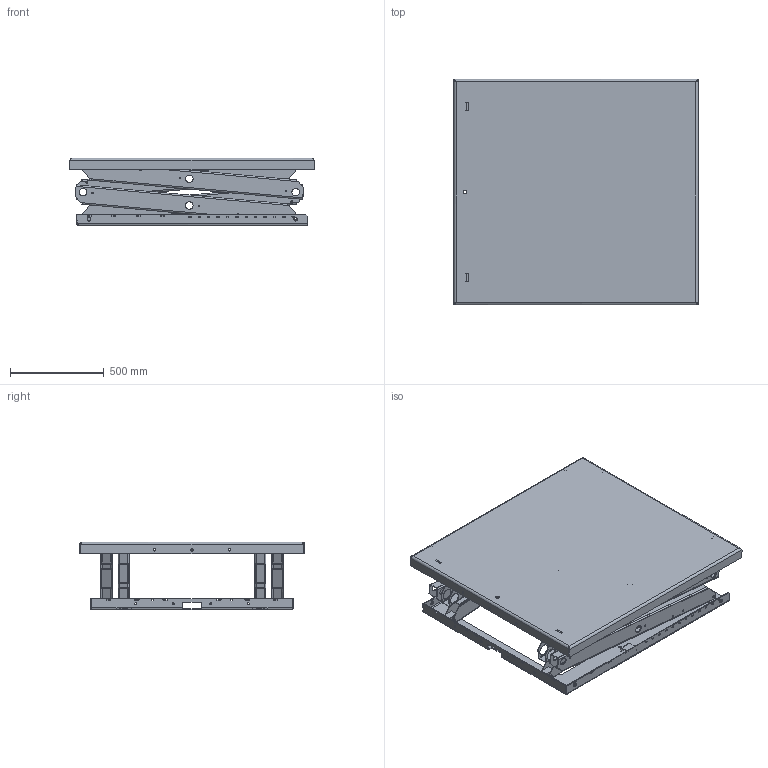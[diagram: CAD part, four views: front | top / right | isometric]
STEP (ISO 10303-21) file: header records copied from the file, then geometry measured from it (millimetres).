
FILE_DESCRIPTION(/* description */ ('TLD 2000XB (1300x1200)'),/* implementation_level */ '2;1');
FILE_NAME(/* name */ '\\EDMOFILE01\Users$\JOHSO\Desktop\524835_Closed_Height.stp',/* time_stamp */ '2017-10-05T14:09:42+02:00',/* author */ ('johso'),/* organization */ (''),/* preprocessor_version */ 'ST-DEVELOPER v16.5',/* originating_system */ 'Autodesk Inventor 2017',/* authorisation */ '');
FILE_SCHEMA (('AUTOMOTIVE_DESIGN { 1 0 10303 214 3 1 1 }'));
Length unit declared in the file: millimetre
Products named in the file (19): 524835.tmp; 512642; 512642-1; 44870; 512635; 512635-1; 45259; 80131; 41333-710; 612543; 607805; 607804; 607803; 607919; 607835; 33123C; 82148-1195; 607807; 33124
Assembly tree (31 placements, depth 6):
  524835.tmp
    512642
      512642-1
      45259  x2
      44870  x2
    512635
      512635-1
      45259  x2
      80131  x4
      41333-710
    612543
      607805
        607804
          33123C  x2
            82148-1195
        607803
          33124  x2
      607919
        607835
          33123C  x2
            82148-1195
        607807
          33124  x2
Bounding box: 1300 x 1200 x 360 mm (x, y, z)
Volume: 26394788.4 mm3; surface area: 10965698.4 mm2
Topology: 21 solids, 21 shells, 1233 faces, 3498 edges, 2299 vertices
Faces by surface type: plane 646, cylinder 537, cone 28, bspline 22
Full cylindrical faces by diameter (mm): 5.55 x2, 6.8 x4, 7.4 x24, 8 x4, 10 x24, 10.5 x4, 11.63 x4, 12.5 x6, 13 x8, 14.2 x16, 19 x1, 20 x4, 28.1 x4, 40 x16, 60 x16
Entity records: 25775 total; most frequent: CARTESIAN_POINT 5285, DIRECTION 4122, ORIENTED_EDGE 4098, EDGE_CURVE 2049, LINE 1390, VECTOR 1390, VERTEX_POINT 1369, AXIS2_PLACEMENT_3D 1366
